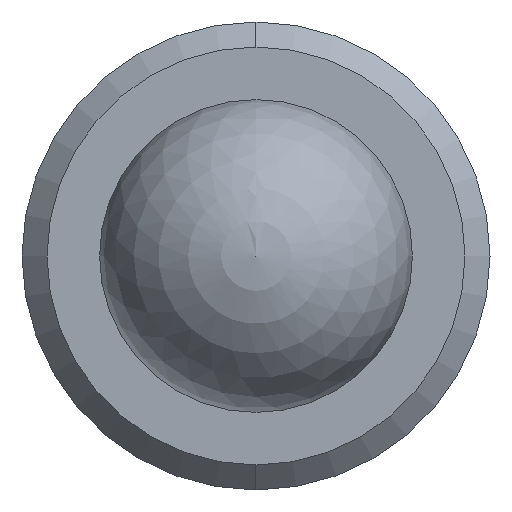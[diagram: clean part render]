
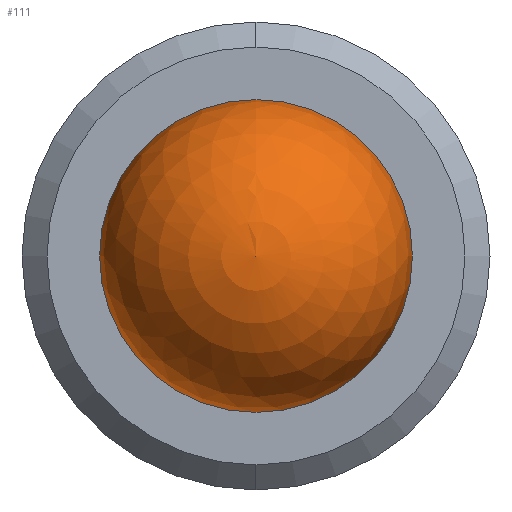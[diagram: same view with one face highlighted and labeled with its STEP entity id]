
A CAD part, left-side view. The second image highlights one B-rep face of the part: STEP entity #111.
In plain terms, the highlighted spherical face has radius 1.587 mm.
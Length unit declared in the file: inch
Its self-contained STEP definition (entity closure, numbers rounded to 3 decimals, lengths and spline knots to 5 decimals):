
#9 = EDGE_CURVE ( 'NONE', #339, #295, #151, .T. ) ;
#24 = SPHERICAL_SURFACE ( 'NONE', #254, 0.0625 ) ;
#57 = EDGE_CURVE ( 'NONE', #339, #295, #129, .T. ) ;
#75 = CARTESIAN_POINT ( 'NONE',  ( 0., 0.0625, 0. ) ) ;
#111 = ADVANCED_FACE ( 'NONE', ( #124 ), #24, .T. ) ;
#124 = FACE_OUTER_BOUND ( 'NONE', #620, .T. ) ;
#129 = CIRCLE ( 'NONE', #313, 0.0625 ) ;
#151 = CIRCLE ( 'NONE', #350, 0.0625 ) ;
#206 = DIRECTION ( 'NONE',  ( -1., 0., 0. ) ) ;
#254 = AXIS2_PLACEMENT_3D ( 'NONE', #365, #206, #512 ) ;
#295 = VERTEX_POINT ( 'NONE', #440 ) ;
#303 = DIRECTION ( 'NONE',  ( 0., 0., 1. ) ) ;
#313 = AXIS2_PLACEMENT_3D ( 'NONE', #552, #318, #613 ) ;
#318 = DIRECTION ( 'NONE',  ( 1., 0., 0. ) ) ;
#339 = VERTEX_POINT ( 'NONE', #75 ) ;
#350 = AXIS2_PLACEMENT_3D ( 'NONE', #438, #597, #303 ) ;
#365 = CARTESIAN_POINT ( 'NONE',  ( 0., 0., 0. ) ) ;
#438 = CARTESIAN_POINT ( 'NONE',  ( 0., 0., 0. ) ) ;
#440 = CARTESIAN_POINT ( 'NONE',  ( 0., -0.0625, 0. ) ) ;
#512 = DIRECTION ( 'NONE',  ( 0., 0., 1. ) ) ;
#552 = CARTESIAN_POINT ( 'NONE',  ( 0., 0., 0. ) ) ;
#586 = ORIENTED_EDGE ( 'NONE', *, *, #9, .T. ) ;
#597 = DIRECTION ( 'NONE',  ( -1., 0., 0. ) ) ;
#613 = DIRECTION ( 'NONE',  ( 0., 0., -1. ) ) ;
#614 = ORIENTED_EDGE ( 'NONE', *, *, #57, .F. ) ;
#620 = EDGE_LOOP ( 'NONE', ( #614, #586 ) ) ;
